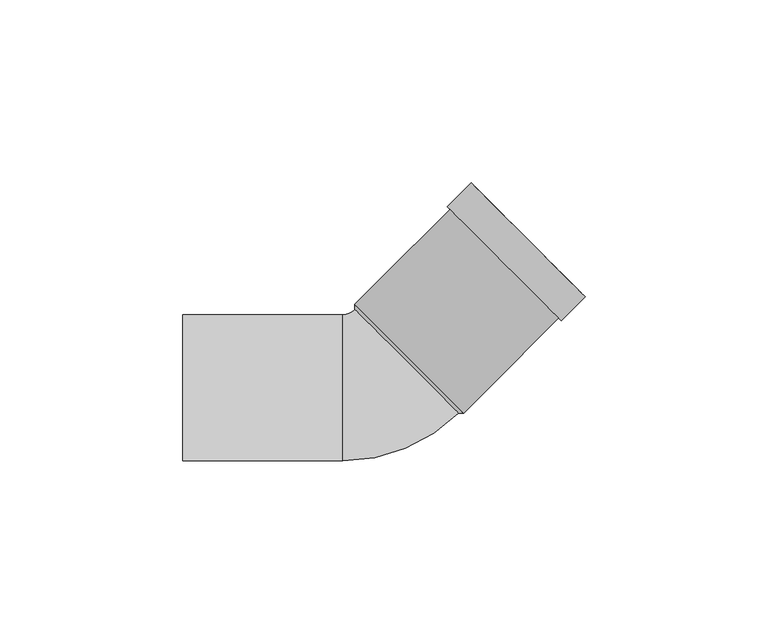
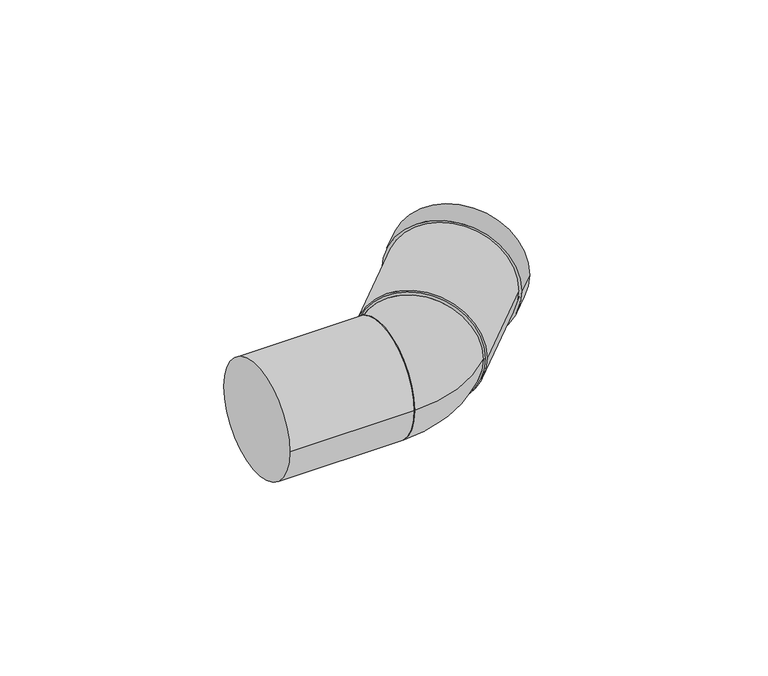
"""IFC4 building model written with IfcOpenShell, lengths in millimetres: pipe fitting geometry, Superdrain HT bend : Superdrain HT Bend."""

from ifc_helpers import new_model, si_unit, point, frame, origin, origin_2d, place, context, project, spatial, polyline, circle_curve, ellipse_curve, trimmed, segment, composite_curve, outline, extrude, source, transform, mapped, element, save
from ifc_brep_helpers import plane_surface, revolved_surface, advanced_brep


def pipe_fitting_0356ee62(model_context):
    return source(origin(), model_context, "Body", "SolidModel", [
        advanced_brep(
        [(21.3546248, -6.9296465, 0.0), (-6.9296465, 21.3546248, 0.0), (-10.2, -20.0, 0.0), (-10.2, 20.0, 0.0)],
        [
            (0, 1, circle_curve(frame((7.2124892, 7.2124892, 0.0), z_axis=(0.7071067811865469, 0.7071067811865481, 0.0), x_axis=(-0.7071067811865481, 0.7071067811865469, 0.0)), 20.0)),
            (1, 0, circle_curve(frame((7.2124892, 7.2124892, 0.0), z_axis=(0.7071067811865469, 0.7071067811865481, 0.0), x_axis=(-0.7071067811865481, 0.7071067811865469, 0.0)), 20.0)),
            (2, 3, circle_curve(frame((-10.2, 0.0, 0.0), z_axis=(-1.0, 0.0, 0.0), x_axis=(0.0, 1.0, 0.0)), 20.0)),
            (3, 2, circle_curve(frame((-10.2, 0.0, 0.0), z_axis=(-1.0, 0.0, 0.0), x_axis=(0.0, 1.0, 0.0)), 20.0)),
            (3, 1, circle_curve(frame((-10.2, 24.6249783, 0.0), z_axis=(0.0, 0.0, 1.0), x_axis=(1.0, 0.0, 0.0)), 4.6249783)),
            (0, 2, circle_curve(frame((-10.2, 24.6249783, 0.0), z_axis=(0.0, 0.0, -1.0), x_axis=(1.0, 0.0, 0.0)), 44.6249783)),
        ],
        [
            plane_surface(frame((7.2124892, 7.2124892, 0.0), z_axis=(0.707106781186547, 0.7071067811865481, 0.0), x_axis=(0.0, 0.0, -1.0))),
            plane_surface(frame((-10.2, 0.0, 0.0), z_axis=(-1.0, 0.0, 0.0), x_axis=(0.0, 0.0, -1.0))),
            revolved_surface(trimmed(ellipse_curve(frame((14.4249783, 24.6249783, 0.0), z_axis=(0.0, -1.0, 0.0), x_axis=(-1.0, 0.0, 0.0)), 20.0, 20.0), [point((-5.5750217, 24.6249783, 0.0))], [point((34.4249783, 24.6249783, 0.0))], True, "CARTESIAN"), (-10.2, 24.6249783, 0.0), (0.0, 0.0, 1.0)),
            revolved_surface(trimmed(ellipse_curve(frame((14.4249783, 24.6249783, 0.0), z_axis=(0.0, -1.0, 0.0), x_axis=(-1.0, 0.0, 0.0)), 20.0, 20.0), [point((34.4249783, 24.6249783, 0.0))], [point((-5.5750217, 24.6249783, 0.0))], True, "CARTESIAN"), (-10.2, 24.6249783, 0.0), (0.0, 0.0, 1.0)),
        ],
        [
            (0, [[1, 2]]),
            (1, [[3, 4]]),
            (2, [[-4, 5, -1, 6]]),
            (3, [[-3, -6, -2, -5]]),
        ],
    ),
        extrude(outline(composite_curve([segment(trimmed(circle_curve(origin_2d(), 21.0), [point((0.0, 21.0000001))], [point((0.0, -21.0000001))], False, "CARTESIAN"), True, "CONTINUOUS"), segment(trimmed(circle_curve(origin_2d(), 21.0), [point((0.0, -21.0000001))], [point((0.0, 21.0000001))], False, "CARTESIAN"), True, "CONTINUOUS")], self_intersect=False), holes=[composite_curve([segment(trimmed(circle_curve(origin_2d(), 20.0), [point((0.0, 20.0))], [point((0.0, -20.0))], True, "CARTESIAN"), True, "CONTINUOUS"), segment(trimmed(circle_curve(origin_2d(), 20.0), [point((0.0, -20.0))], [point((0.0, 20.0))], True, "CARTESIAN"), True, "CONTINUOUS")], self_intersect=False)]), frame((7.9195959, 7.9195959, 0.0), z_axis=(0.7071067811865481, 0.707106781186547, 0.0), x_axis=(0.0, 0.0, 1.0)), (0.0, 0.0, 1.0), 46.0),
        extrude(outline(composite_curve([segment(trimmed(circle_curve(origin_2d(), 22.05), [point((0.0, -22.05))], [point((0.0, 22.05))], False, "CARTESIAN"), True, "CONTINUOUS"), segment(trimmed(circle_curve(origin_2d(), 22.05), [point((0.0, 22.05))], [point((0.0, -22.05))], False, "CARTESIAN"), True, "CONTINUOUS")], self_intersect=False), holes=[composite_curve([segment(trimmed(circle_curve(origin_2d(), 20.0), [point((0.0, -20.0))], [point((0.0, 20.0))], True, "CARTESIAN"), True, "CONTINUOUS"), segment(trimmed(circle_curve(origin_2d(), 20.0), [point((0.0, 20.0))], [point((0.0, -20.0))], True, "CARTESIAN"), True, "CONTINUOUS")], self_intersect=False)]), frame((33.9411255, 33.9411255, 0.0), z_axis=(0.707106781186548, 0.707106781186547, 0.0), x_axis=(0.0, 0.0, 1.0)), (0.0, 0.0, 1.0), 9.2),
        advanced_brep(
        [(22.7688384, -6.9296465, 0.0), (-6.9296465, 22.7688384, 0.0), (21.3546248, -6.9296465, 0.0), (-6.9296465, 21.3546248, 0.0)],
        [
            (0, 1, circle_curve(frame((7.9195959, 7.9195959, 0.0), z_axis=(0.7071067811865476, 0.7071067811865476, 0.0), x_axis=(0.7071067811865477, -0.7071067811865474, 0.0)), 21.0)),
            (1, 0, circle_curve(frame((7.9195959, 7.9195959, 0.0), z_axis=(0.7071067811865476, 0.7071067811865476, 0.0), x_axis=(-0.7071067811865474, 0.7071067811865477, 0.0)), 21.0)),
            (2, 3, circle_curve(frame((7.2124892, 7.2124892, 0.0), z_axis=(-0.7071067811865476, -0.7071067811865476, 0.0), x_axis=(-0.7071067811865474, 0.7071067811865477, 0.0)), 20.0)),
            (3, 2, circle_curve(frame((7.2124892, 7.2124892, 0.0), z_axis=(-0.7071067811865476, -0.7071067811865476, 0.0), x_axis=(0.7071067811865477, -0.7071067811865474, 0.0)), 20.0)),
            (3, 1),
            (0, 2),
        ],
        [
            plane_surface(frame((7.9195959, 7.9195959, 0.0), z_axis=(0.707106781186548, 0.707106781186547, 0.0), x_axis=(0.0, 0.0, -1.0))),
            plane_surface(frame((7.2124892, 7.2124892, 0.0), z_axis=(-0.707106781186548, -0.707106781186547, 0.0), x_axis=(0.0, 0.0, -1.0))),
            revolved_surface(polyline([(-6.9296465, 21.354624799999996, 0.0), (-6.9296465, 22.7688384, 0.0)]), (-6.9296465, -6.9296465, 0.0), (0.7071067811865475, 0.7071067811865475, 0.0)),
            revolved_surface(polyline([(21.354624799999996, -6.9296465, 0.0), (22.7688384, -6.9296465, 0.0)]), (-6.9296465, -6.9296465, 0.0), (0.7071067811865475, 0.7071067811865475, 0.0)),
        ],
        [
            (0, [[1, 2]]),
            (1, [[3, 4]]),
            (2, [[-4, 5, -1, 6]]),
            (3, [[-3, -6, -2, -5]]),
        ],
    ),
        extrude(outline(composite_curve([segment(trimmed(circle_curve(origin_2d(), 20.0), [point((-20.0, 0.0))], [point((20.0, 0.0))], False, "CARTESIAN"), True, "CONTINUOUS"), segment(trimmed(circle_curve(origin_2d(), 20.0), [point((20.0, 0.0))], [point((-20.0, 0.0))], False, "CARTESIAN"), True, "CONTINUOUS")], self_intersect=False)), frame((-54.0, 0.0, 0.0), z_axis=(1.0, 0.0, 0.0), x_axis=(0.0, 1.0, 0.0)), (0.0, 0.0, 1.0), 43.8),
    ])


if __name__ == "__main__":
    model = new_model("IFC4")
    model_context = context("Model", 3, world=origin())
    ifc_project = project(units=[si_unit("LENGTHUNIT", "METRE", prefix="MILLI")], contexts=[model_context])
    site = spatial("IfcSite", under=ifc_project)
    building = spatial("IfcBuilding", under=site)
    placement = place(None, origin())
    pipe_fitting_shape = pipe_fitting_0356ee62(model_context)
    element("IfcPipeFitting", 1, ObjectType="Superdrain HT bend : Superdrain HT Bend", at=placement, inside=building, context=model_context, shape_type="MappedRepresentation", body=[
        mapped(pipe_fitting_shape, transform((0.0, 0.0, 0.0), x_axis=(1.0, 0.0, 0.0), y_axis=(0.0, 1.0, 0.0), z_axis=(0.0, 0.0, 1.0))),
    ])
    save(model, "model.ifc")
